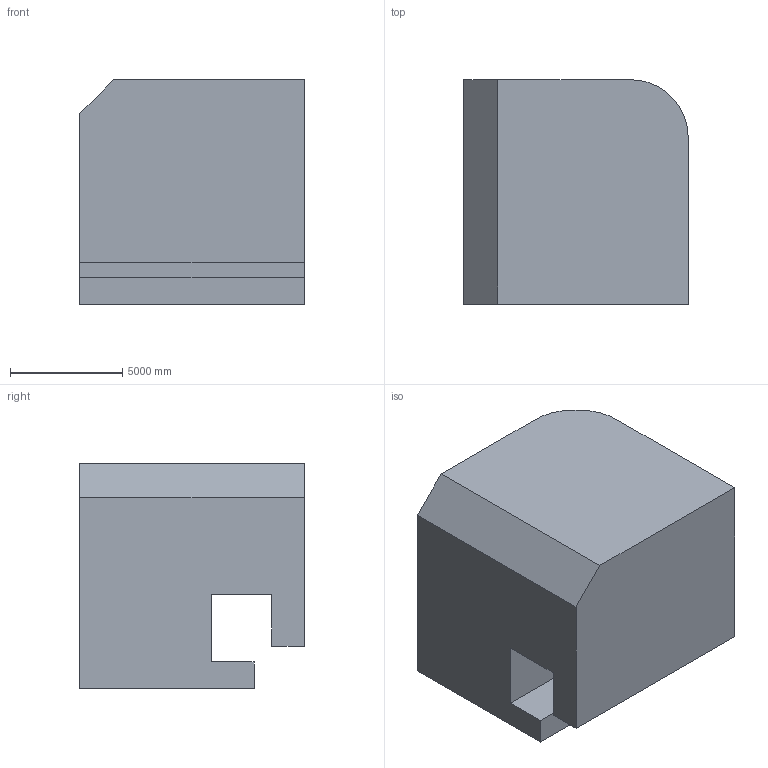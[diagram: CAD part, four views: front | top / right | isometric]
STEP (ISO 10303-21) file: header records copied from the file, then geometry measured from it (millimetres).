
FILE_DESCRIPTION (( 'STEP AP203' ), '1' );
FILE_NAME ('1696.STEP', '2022-08-26T13:21:22', ( 'user' ), ( '' ), 'SwSTEP 2.0', 'SolidWorks 2021', '' );
FILE_SCHEMA (( 'CONFIG_CONTROL_DESIGN' ));
Length unit declared in the file: centimetre
Products named in the file (1): 1696
Bounding box: 10000 x 10000 x 10000 mm (x, y, z)
Volume: 843880466288.4 mm3; surface area: 668796008.8 mm2
Topology: 1 solids, 1 shells, 22 faces, 57 edges, 38 vertices
Faces by surface type: plane 21, cylinder 1
Entity records: 742 total; most frequent: CARTESIAN_POINT 118, ORIENTED_EDGE 114, DIRECTION 107, EDGE_CURVE 57, VECTOR 53, LINE 53, VERTEX_POINT 38, AXIS2_PLACEMENT_3D 27
